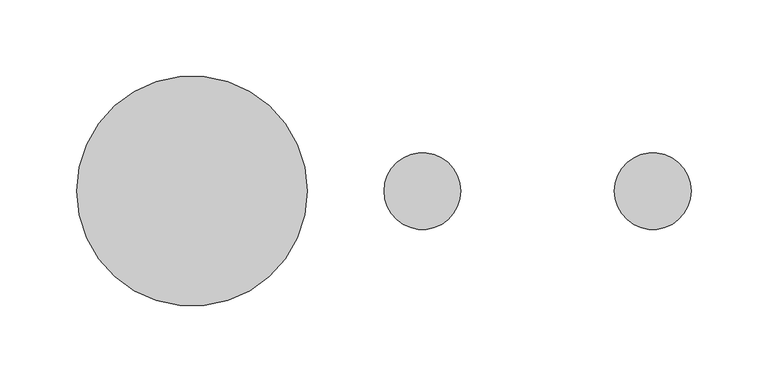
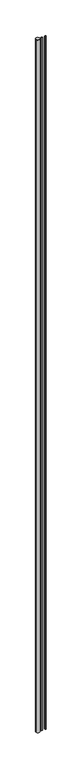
"""IFC4 building model written with IfcOpenShell, lengths in millimetres: flow terminal geometry, SP_Стояки : ГВ,ХВ,К."""

from ifc_helpers import new_model, si_unit, point, frame, frame_2d, origin, place, context, project, spatial, circle_curve, trimmed, segment, composite_curve, outline, extrude, source, transform, mapped, element, save


def flow_terminal_e84ad2cf(model_context):
    return source(origin(), model_context, "Body", "SweptSolid", [
        extrude(outline(composite_curve([segment(trimmed(circle_curve(frame_2d((400.0, 119.7596685)), 25.0), [point((375.0, 119.7596685))], [point((425.0, 119.7596685))], False, "CARTESIAN"), True, "CONTINUOUS"), segment(trimmed(circle_curve(frame_2d((400.0, 119.7596685)), 25.0), [point((425.0, 119.7596685))], [point((375.0, 119.7596685))], False, "CARTESIAN"), True, "CONTINUOUS")], self_intersect=False)), frame((0.0, 0.0, 1200.0), z_axis=(0.0, 0.0, 1.0), x_axis=(1.0, 0.0, 0.0)), (0.0, 0.0, 1.0), 28500.0),
        extrude(outline(composite_curve([segment(trimmed(circle_curve(frame_2d((250.0, 119.7596685)), 25.0), [point((225.0, 119.7596685))], [point((275.0, 119.7596685))], False, "CARTESIAN"), True, "CONTINUOUS"), segment(trimmed(circle_curve(frame_2d((250.0, 119.7596685)), 25.0), [point((275.0, 119.7596685))], [point((225.0, 119.7596685))], False, "CARTESIAN"), True, "CONTINUOUS")], self_intersect=False)), frame((0.0, 0.0, 1200.0), z_axis=(0.0, 0.0, 1.0), x_axis=(1.0, 0.0, 0.0)), (0.0, 0.0, 1.0), 28500.0),
        extrude(outline(composite_curve([segment(trimmed(circle_curve(frame_2d((100.0, 119.7596685)), 75.0), [point((25.0, 119.7596685))], [point((175.0, 119.7596685))], False, "CARTESIAN"), True, "CONTINUOUS"), segment(trimmed(circle_curve(frame_2d((100.0, 119.7596685)), 75.0), [point((175.0, 119.7596685))], [point((25.0, 119.7596685))], False, "CARTESIAN"), True, "CONTINUOUS")], self_intersect=False)), frame((0.0, 0.0, 1200.0), z_axis=(0.0, 0.0, 1.0), x_axis=(1.0, 0.0, 0.0)), (0.0, 0.0, 1.0), 28500.0),
    ])


if __name__ == "__main__":
    model = new_model("IFC4")
    model_context = context("Model", 3, world=origin())
    ifc_project = project(units=[si_unit("LENGTHUNIT", "METRE", prefix="MILLI")], contexts=[model_context])
    site = spatial("IfcSite", under=ifc_project)
    building = spatial("IfcBuilding", under=site)
    placement = place(None, origin())
    flow_terminal_shape = flow_terminal_e84ad2cf(model_context)
    element("IfcFlowTerminal", 1, ObjectType="SP_Стояки : ГВ,ХВ,К", at=placement, inside=building, context=model_context, shape_type="MappedRepresentation", body=[
        mapped(flow_terminal_shape, transform((0.0, 0.0, 0.0), x_axis=(1.0, 0.0, 0.0), y_axis=(0.0, 1.0, 0.0), z_axis=(0.0, 0.0, 1.0))),
    ])
    save(model, "model.ifc")
